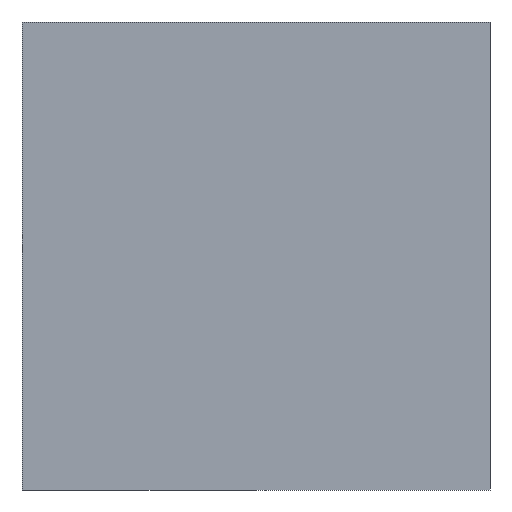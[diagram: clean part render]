
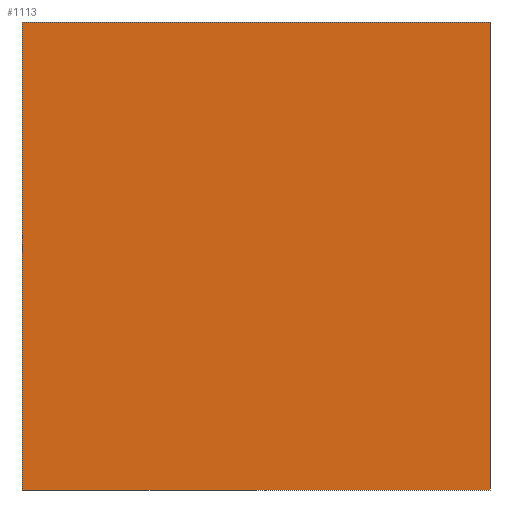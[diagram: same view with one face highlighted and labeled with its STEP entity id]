
A CAD part, left-side view. The second image highlights one B-rep face of the part: STEP entity #1113.
In plain terms, the highlighted planar face has unit normal (-1, 0, 0).
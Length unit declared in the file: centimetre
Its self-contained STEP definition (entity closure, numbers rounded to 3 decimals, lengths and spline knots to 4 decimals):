
#72 = DIRECTION ( 'NONE',  ( 0., -1., 0. ) ) ;
#155 = CARTESIAN_POINT ( 'NONE',  ( 0., 1000., 0. ) ) ;
#176 = CARTESIAN_POINT ( 'NONE',  ( 0., 0., 1000. ) ) ;
#190 = EDGE_CURVE ( 'NONE', #999, #717, #1060, .T. ) ;
#256 = ORIENTED_EDGE ( 'NONE', *, *, #657, .F. ) ;
#294 = DIRECTION ( 'NONE',  ( 1., 0., 0. ) ) ;
#318 = ORIENTED_EDGE ( 'NONE', *, *, #706, .T. ) ;
#352 = LINE ( 'NONE', #638, #1166 ) ;
#364 = LINE ( 'NONE', #176, #442 ) ;
#400 = CARTESIAN_POINT ( 'NONE',  ( 0., 1000., 1000. ) ) ;
#409 = ORIENTED_EDGE ( 'NONE', *, *, #1212, .T. ) ;
#442 = VECTOR ( 'NONE', #651, 100. ) ;
#484 = VECTOR ( 'NONE', #820, 100. ) ;
#493 = DIRECTION ( 'NONE',  ( 0., 0., -1. ) ) ;
#501 = EDGE_LOOP ( 'NONE', ( #318, #256, #1054, #409 ) ) ;
#502 = FACE_OUTER_BOUND ( 'NONE', #501, .T. ) ;
#519 = VERTEX_POINT ( 'NONE', #155 ) ;
#535 = LINE ( 'NONE', #618, #484 ) ;
#556 = DIRECTION ( 'NONE',  ( 0., 0., -1. ) ) ;
#618 = CARTESIAN_POINT ( 'NONE',  ( 0., 1000., 0. ) ) ;
#638 = CARTESIAN_POINT ( 'NONE',  ( 0., 1000., 1000. ) ) ;
#651 = DIRECTION ( 'NONE',  ( 0., 0., -1. ) ) ;
#657 = EDGE_CURVE ( 'NONE', #717, #811, #364, .T. ) ;
#706 = EDGE_CURVE ( 'NONE', #519, #811, #535, .T. ) ;
#717 = VERTEX_POINT ( 'NONE', #828 ) ;
#784 = CARTESIAN_POINT ( 'NONE',  ( 0., 1000., 1000. ) ) ;
#811 = VERTEX_POINT ( 'NONE', #1134 ) ;
#820 = DIRECTION ( 'NONE',  ( 0., -1., 0. ) ) ;
#828 = CARTESIAN_POINT ( 'NONE',  ( 0., 0., 1000. ) ) ;
#875 = PLANE ( 'NONE',  #1148 ) ;
#999 = VERTEX_POINT ( 'NONE', #784 ) ;
#1043 = CARTESIAN_POINT ( 'NONE',  ( 0., 1000., 1000. ) ) ;
#1054 = ORIENTED_EDGE ( 'NONE', *, *, #190, .F. ) ;
#1060 = LINE ( 'NONE', #1043, #1176 ) ;
#1113 = ADVANCED_FACE ( 'NONE', ( #502 ), #875, .F. ) ;
#1134 = CARTESIAN_POINT ( 'NONE',  ( 0., 0., 0. ) ) ;
#1148 = AXIS2_PLACEMENT_3D ( 'NONE', #400, #294, #493 ) ;
#1166 = VECTOR ( 'NONE', #556, 100. ) ;
#1176 = VECTOR ( 'NONE', #72, 100. ) ;
#1212 = EDGE_CURVE ( 'NONE', #999, #519, #352, .T. ) ;
